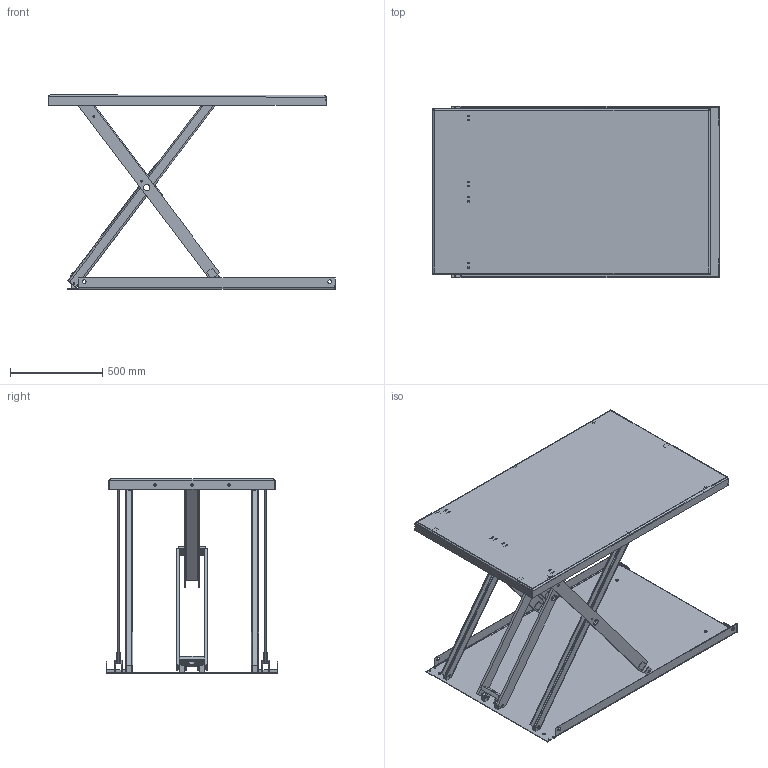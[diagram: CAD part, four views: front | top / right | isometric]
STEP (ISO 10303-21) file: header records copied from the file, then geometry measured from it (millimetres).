
FILE_DESCRIPTION(/* description */ ('TCB 600H (1500x900)'),/* implementation_level */ '2;1');
FILE_NAME(/* name */ '\\EDMOFILE01\Users$\JOHSO\Desktop\33638_Elevated.stp',/* time_stamp */ '2017-02-20T10:47:28+01:00',/* author */ ('johso'),/* organization */ (''),/* preprocessor_version */ 'ST-DEVELOPER v16.5',/* originating_system */ 'Autodesk Inventor 2017',/* authorisation */ '');
FILE_SCHEMA (('AUTOMOTIVE_DESIGN { 1 0 10303 214 3 1 1 }'));
Length unit declared in the file: millimetre
Products named in the file (25): 33638.tmp; 33247; 35887; 42974; 43469C; 33253C; 33253C-1; 42949C; 517432; 33252C; 82170-1245; 517434; 517433; 43342C; 43948C; 517441; 517435; 517435-1; 42947; 33246C; 514470; 33248-4; 45087; 84207; 44572
Assembly tree (47 placements, depth 4):
  33638.tmp
    33247
      35887
      42974  x4
      43469C  x2
    33253C  x2
      33253C-1
      42949C
    517432
      33252C  x2
        82170-1245
      517434  x2
      517433
      43342C  x2
      43948C
    517441
      517435
        517435-1
        42947  x2
    33246C
      514470
      33248-4  x8
      84207  x4
      44572  x3
      45087  x2
Bounding box: 1549.85 x 930 x 1050 mm (x, y, z)
Volume: 19116185.5 mm3; surface area: 8110848 mm2
Topology: 42 solids, 42 shells, 1031 faces, 2690 edges, 1750 vertices
Faces by surface type: plane 550, cylinder 421, bspline 32, cone 28
Full cylindrical faces by diameter (mm): 4.7 x4, 6 x4, 7.4 x1, 8.88 x4, 9.4 x4, 10 x12, 10.1 x2, 10.5 x14, 12.5 x6, 14 x4, 20 x10, 20.1 x2, 26 x4, 30 x2, 34.1 x2, 35 x3, 45 x4, 50.1 x2
Entity records: 21037 total; most frequent: CARTESIAN_POINT 4856, DIRECTION 3262, ORIENTED_EDGE 3146, EDGE_CURVE 1573, AXIS2_PLACEMENT_3D 1131, VERTEX_POINT 1057, LINE 1000, VECTOR 1000
